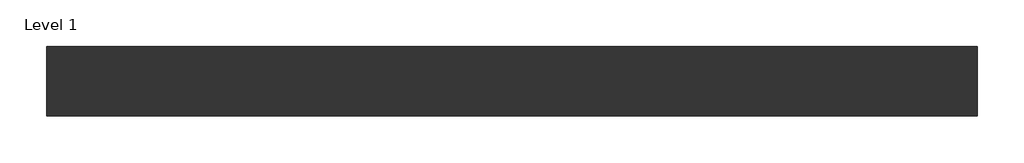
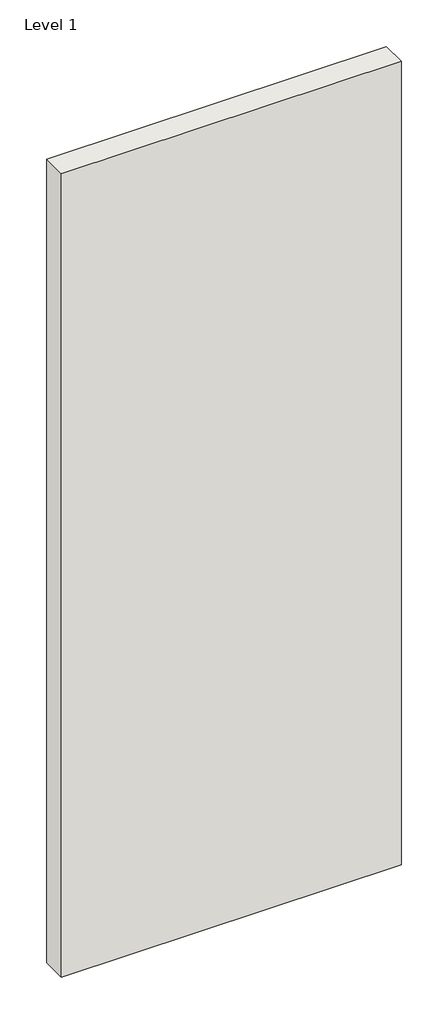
# One storey: 1 wall.
"""IFC4 building model written with IfcOpenShell, lengths in millimetres."""

import ifcopenshell
import ifcopenshell.guid

model = None  # the IFC model being written
_history = None  # IfcOwnerHistory: only IFC2X3 demands one
_inside = {}  # id of a spatial element -> (the spatial element, [elements in it])
_under = {}  # id of a project, library or spatial element -> (it, [spatial elements below it])
_declared = {}  # id of a project -> (the project, [libraries it declares])
_typed = {}  # id of a type object -> (the type object, [elements of that type])
_made_of = {}  # id of a material, layer set ... -> (it, [elements and type objects made of it])


def new_model(schema):
    """Start an empty IFC model of exactly this schema.

    Asked for "IFC4X3", IfcOpenShell would pick the latest addendum, in which some entities
    have other attributes; the version numbers below select the first issue.
    IFC2X3 requires an IfcOwnerHistory on every rooted entity: one is made here for all.
    """
    global model, _history
    if schema == "IFC4X3":
        model = ifcopenshell.file(schema_version=(4, 3, 0, 0))
    else:
        model = ifcopenshell.file(schema=schema)
    _inside.clear()
    _under.clear()
    _declared.clear()
    _typed.clear()
    _made_of.clear()
    _history = None
    if model.schema == "IFC2X3":
        org = make("IfcOrganization", Name="unknown")
        user = make(
            "IfcPersonAndOrganization",
            ThePerson=make("IfcPerson", FamilyName="unknown"),
            TheOrganization=org,
        )
        app = make(
            "IfcApplication",
            ApplicationDeveloper=org,
            Version="unknown",
            ApplicationFullName="unknown",
            ApplicationIdentifier="unknown",
        )
        _history = make(
            "IfcOwnerHistory",
            OwningUser=user,
            OwningApplication=app,
            ChangeAction="ADDED",
            CreationDate=0,
        )
    return model


def make(cls, **values):
    """One entity of the class cls with the attributes given. An attribute that is None is left unset."""
    return model.create_entity(
        cls, **{name: value for name, value in values.items() if value is not None}
    )


def rooted(cls, **values):
    """An entity with a GlobalId (a new one), such as an element, a storey or a relation."""
    return make(cls, GlobalId=ifcopenshell.guid.new(), OwnerHistory=_history, **values)


def si_unit(unit_type, name, prefix=None):
    """IfcSIUnit, for example si_unit("LENGTHUNIT", "METRE", prefix="MILLI")."""
    return make("IfcSIUnit", UnitType=unit_type, Prefix=prefix, Name=name)


def assignment(units):
    """IfcUnitAssignment: the units of a project."""
    return None if units is None else make("IfcUnitAssignment", Units=units)


def point(xyz):
    """IfcCartesianPoint."""
    return None if xyz is None else make("IfcCartesianPoint", Coordinates=xyz)


def direction(xyz):
    """IfcDirection."""
    return None if xyz is None else make("IfcDirection", DirectionRatios=xyz)


def frame(location, z_axis=None, x_axis=None):
    """IfcAxis2Placement3D, a coordinate frame: its origin and axes. An axis left out is left unset."""
    return make(
        "IfcAxis2Placement3D",
        Location=point(location),
        Axis=direction(z_axis),
        RefDirection=direction(x_axis),
    )


def origin():
    """The frame at (0, 0, 0) with its axes left unset."""
    return frame((0.0, 0.0, 0.0))


def origin_with_axes():
    """The frame at (0, 0, 0) with the z axis (0, 0, 1) and the x axis (1, 0, 0) written out."""
    return frame((0.0, 0.0, 0.0), z_axis=(0.0, 0.0, 1.0), x_axis=(1.0, 0.0, 0.0))


def place(relative_to, where):
    """IfcLocalPlacement: puts the frame where relative to a parent placement (None: the world)."""
    return make(
        "IfcLocalPlacement", PlacementRelTo=relative_to, RelativePlacement=where
    )


def context(
    kind, dimensions, precision=None, world=None, true_north=None, identifier=None
):
    """IfcGeometricRepresentationContext, for example the 3D "Model" context."""
    return make(
        "IfcGeometricRepresentationContext",
        ContextIdentifier=identifier,
        ContextType=kind,
        CoordinateSpaceDimension=dimensions,
        Precision=precision,
        WorldCoordinateSystem=world,
        TrueNorth=true_north,
    )


def project(units=None, contexts=None):
    """IfcProject with its units and contexts."""
    return rooted(
        "IfcProject",
        Name="project",
        RepresentationContexts=contexts,
        UnitsInContext=assignment(units),
    )


def spatial(cls, under=None, at=None, **own):
    """A site, building, storey or space (cls), placed at a placement, below another one or the project."""
    s = rooted(cls, ObjectPlacement=at, **own)
    if under is not None:
        _under.setdefault(under.id(), (under, []))[1].append(s)
    return s


def polyline(points):
    """IfcPolyline through the points."""
    return make("IfcPolyline", Points=[point(p) for p in points])


def outline(outer, holes=None, kind="AREA"):
    """IfcArbitraryClosedProfileDef: a profile drawn as a closed curve; with holes, ...WithVoids."""
    if holes is None:
        return make("IfcArbitraryClosedProfileDef", ProfileType=kind, OuterCurve=outer)
    return make(
        "IfcArbitraryProfileDefWithVoids",
        ProfileType=kind,
        OuterCurve=outer,
        InnerCurves=holes,
    )


def extrude(swept, where, along, depth):
    """IfcExtrudedAreaSolid: the profile swept, set in the frame where, extruded along a direction by depth."""
    return make(
        "IfcExtrudedAreaSolid",
        SweptArea=swept,
        Position=where,
        ExtrudedDirection=direction(along),
        Depth=depth,
    )


def shape(context_of_items, identifier, shape_type, items):
    """IfcShapeRepresentation: the items that make up one representation, for example the "Body"."""
    return make(
        "IfcShapeRepresentation",
        ContextOfItems=context_of_items,
        RepresentationIdentifier=identifier,
        RepresentationType=shape_type,
        Items=items,
    )


def made_of(thing, what):
    """Note that an element or type object is made of a material, layer set ...; save() writes the relation."""
    if what is not None:
        _made_of.setdefault(what.id(), (what, []))[1].append(thing)
    return thing


def element(
    cls,
    number,
    at=None,
    inside=None,
    cuts=None,
    type_object=None,
    material=None,
    context=None,
    identifier="Body",
    shape_type=None,
    held_by="IfcProductDefinitionShape",
    body=None,
    shapes=None,
    **own,
):
    """One element of the class cls, such as IfcWall. Its Tag is "e" and its number.

    at: its placement. inside: the storey or other place that contains it. cuts: it is an
    opening in that element (IfcRelVoidsElement). A single representation is given by context,
    identifier, shape_type and body (its items); several are given by shapes. held_by: the class
    of the entity that holds the representations. save() writes the other relations.
    """
    e = rooted(cls, Tag="e%d" % number, ObjectPlacement=at, **own)
    if body is not None:
        shapes = [shape(context, identifier, shape_type, body)]
    if shapes is not None:
        e.Representation = make(held_by, Representations=shapes)
    if inside is not None:
        _inside.setdefault(inside.id(), (inside, []))[1].append(e)
    if cuts is not None:
        rooted(
            "IfcRelVoidsElement", RelatingBuildingElement=cuts, RelatedOpeningElement=e
        )
    if type_object is not None:
        _typed.setdefault(type_object.id(), (type_object, []))[1].append(e)
    return made_of(e, material)


def aggregate(whole, parts):
    """IfcRelAggregates: a whole, such as a stair, and the parts it consists of."""
    return rooted("IfcRelAggregates", RelatingObject=whole, RelatedObjects=parts)


def save(model, path):
    """Write the relations noted so far, then the file.

    IfcRelAggregates (storeys below a building ...), IfcRelContainedInSpatialStructure (elements
    in a storey), IfcRelDefinesByType, IfcRelAssociatesMaterial and IfcRelDeclares: one each for
    every whole, place, type object, material and project.
    """
    for whole, parts in _under.values():
        aggregate(whole, parts)
    for where, things in _inside.values():
        rooted(
            "IfcRelContainedInSpatialStructure",
            RelatedElements=things,
            RelatingStructure=where,
        )
    for kind, things in _typed.values():
        rooted("IfcRelDefinesByType", RelatedObjects=things, RelatingType=kind)
    for what, things in _made_of.values():
        rooted("IfcRelAssociatesMaterial", RelatedObjects=things, RelatingMaterial=what)
    for by, libraries in _declared.values():
        rooted("IfcRelDeclares", RelatingContext=by, RelatedDefinitions=libraries)
    model.write(path)


model = new_model("IFC4")

# Units and contexts
model_context = context("Model", 3, world=origin())
ifc_project = project(units=[si_unit("LENGTHUNIT", "METRE", prefix="MILLI")], contexts=[model_context])

# Site, building, storey
site = spatial("IfcSite", under=ifc_project)
building = spatial("IfcBuilding", under=site)
storey = spatial("IfcBuildingStorey", under=building, Name="Level 1", Elevation=0.0)

# Wall
placement = place(None, origin())
element("IfcWall", 1, ObjectType="RIGIPS - 3.40.01 - EI 30, REI 30 - 3250 - 44dB", at=placement, inside=storey, context=model_context, shape_type="SweptSolid", body=[
    extrude(outline(polyline([(1000.0, -37.5), (0.0, -37.5), (0.0, 37.5), (1000.0, 37.5), (1000.0, -37.5)])), origin_with_axes(), (0.0, 0.0, 1.0), 2500.0),
])

save(model, "model.ifc")
